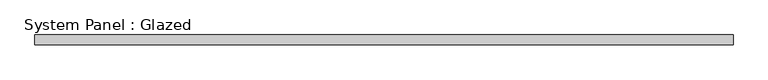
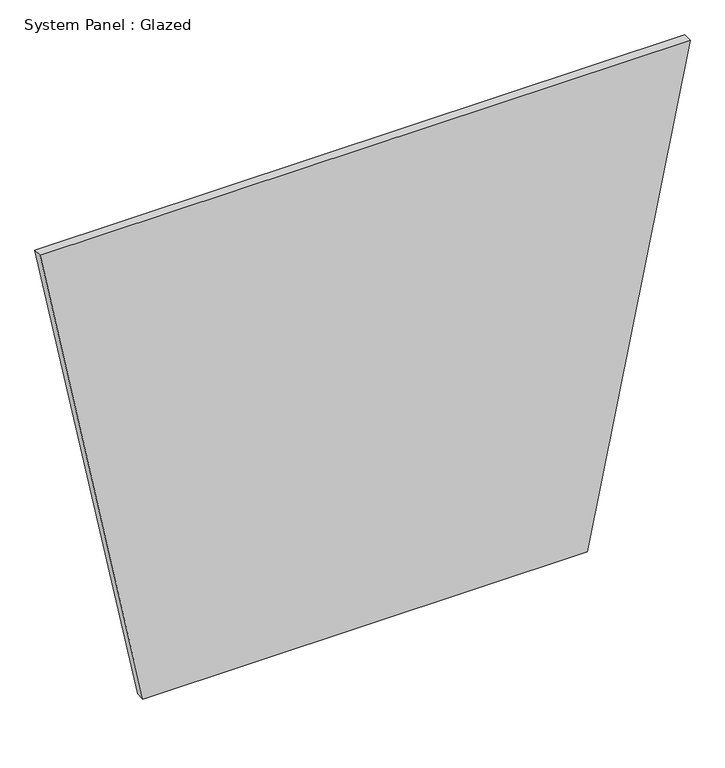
"""IFC4 building model written with IfcOpenShell, lengths in millimetres: plate geometry, System Panel : Glazed."""

from ifc_helpers import new_model, si_unit, frame, origin, place, context, project, spatial, polyline, outline, extrude, source, transform, mapped, element, save


def system_panel_glazed_05ceb18a(model_context):
    return source(origin(), model_context, "Body", "SweptSolid", [
        extrude(outline(polyline([(0.0, -628.7786023), (0.0, 628.7786023), (1429.8788447, 919.8201239), (1429.8788447, -919.8201239), (0.0, -628.7786023)])), frame((0.0, -44.45, 0.0), z_axis=(0.0, 1.0, 0.0), x_axis=(0.0, 0.0, 1.0)), (0.0, 0.0, 1.0), 25.4),
    ])


if __name__ == "__main__":
    model = new_model("IFC4")
    model_context = context("Model", 3, world=origin())
    ifc_project = project(units=[si_unit("LENGTHUNIT", "METRE", prefix="MILLI")], contexts=[model_context])
    site = spatial("IfcSite", under=ifc_project)
    building = spatial("IfcBuilding", under=site)
    placement = place(None, origin())
    system_panel_glazed_shape = system_panel_glazed_05ceb18a(model_context)
    element("IfcPlate", 1, ObjectType="System Panel : Glazed", at=placement, inside=building, context=model_context, shape_type="MappedRepresentation", body=[
        mapped(system_panel_glazed_shape, transform((0.0, 0.0, 0.0), x_axis=(1.0, 0.0, 0.0), y_axis=(0.0, 1.0, 0.0), z_axis=(0.0, 0.0, 1.0))),
    ])
    save(model, "model.ifc")
